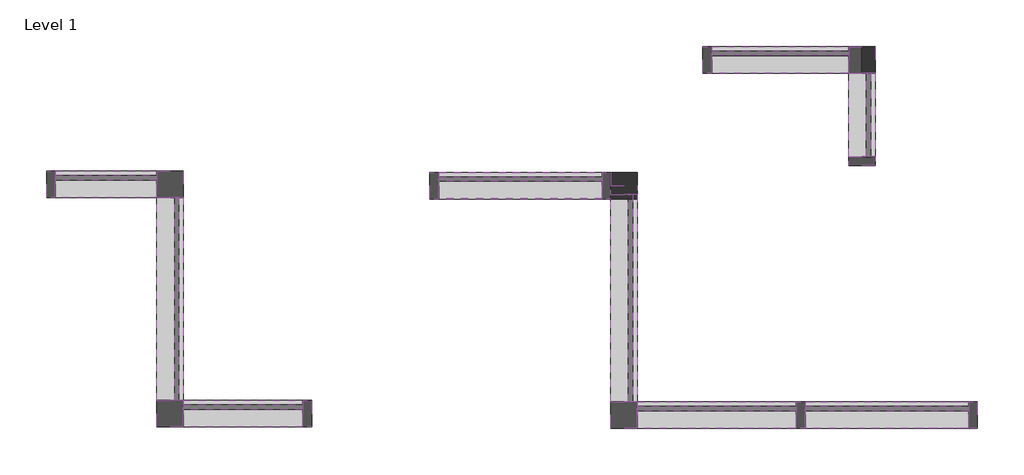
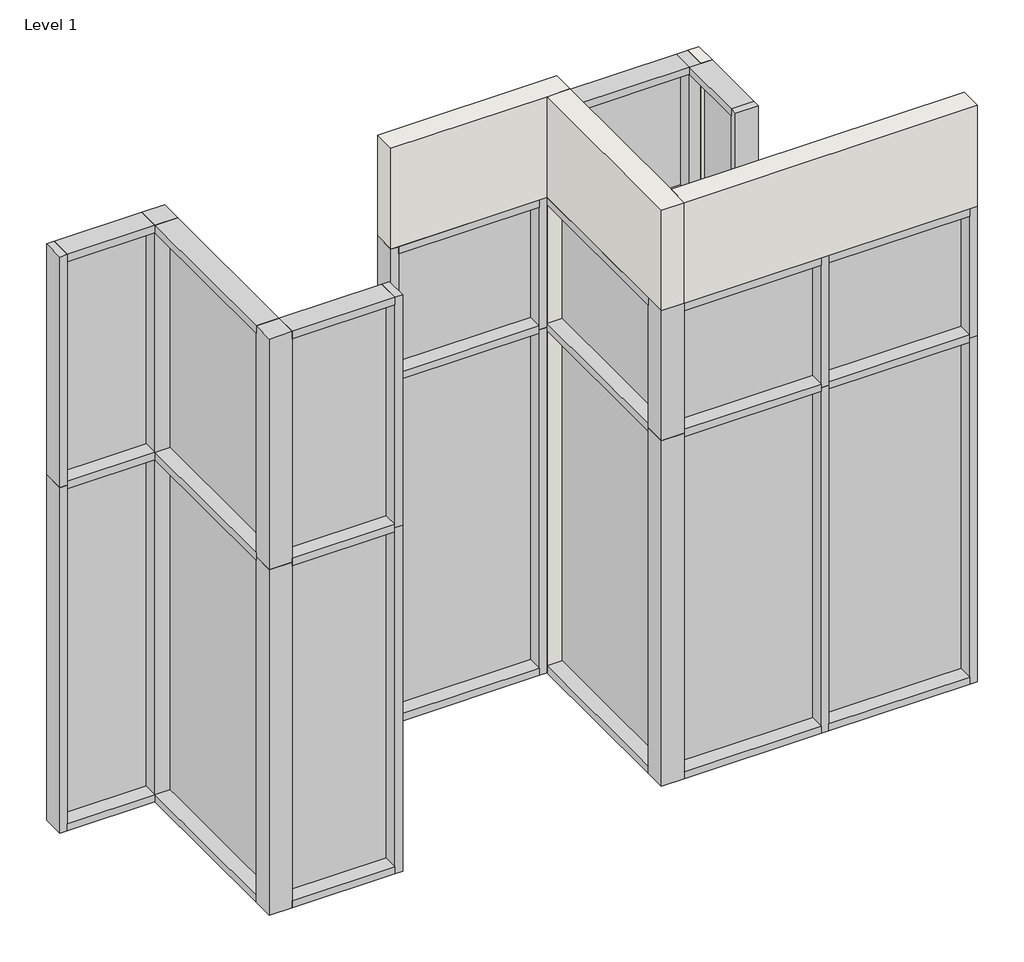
# One storey: 53 members, 18 plates, 4 walls.
"""IFC4 building model written with IfcOpenShell, lengths in millimetres."""

from ifc_helpers import new_model, si_unit, origin, origin_with_axes, place, context, project, spatial, polyline, outline, extrude, faceted_brep, transform, mapped, element, save
from components import quad_corner_mullion_quad_mullion_1_db8797c5, quad_corner_mullion_quad_mullion_1_7e3d86e0, quad_corner_mullion_quad_mullion_1_7d99ceda, quad_corner_mullion_quad_mullion_1_74c77618, quad_corner_mullion_quad_mullion_1_437f71a9, quad_corner_mullion_quad_mullion_1_2cf40457, rectangular_mullion_50mm_x_150mm_662c37b1, rectangular_mullion_50mm_x_150mm_849620c7, rectangular_mullion_50mm_x_150mm_1a1f02c3, rectangular_mullion_50mm_x_150mm_89bf1671, rectangular_mullion_50mm_x_150mm_dbb82e9e, rectangular_mullion_50mm_x_150mm_9e0f1e24, rectangular_mullion_50mm_x_150mm_770ce294, rectangular_mullion_50mm_x_150mm_163d5e45, rectangular_mullion_50mm_x_150mm_35d6a770, rectangular_mullion_50mm_x_150mm_a91aaa2b, rectangular_mullion_50mm_x_150mm_116cff39, rectangular_mullion_50mm_x_150mm_6225e4e3, rectangular_mullion_50mm_x_150mm_3ddb3363, rectangular_mullion_50mm_x_150mm_3a321350, rectangular_mullion_50mm_x_150mm_e54847f5, rectangular_mullion_50mm_x_150mm_5dc04e1f, rectangular_mullion_50mm_x_150mm_6270d9f9, rectangular_mullion_50mm_x_150mm_42d59fea, rectangular_mullion_50mm_x_150mm_05a43cda, system_panel_glazed_da9c98b6, system_panel_glazed_bb21d9a1, system_panel_glazed_6e5ec37a, system_panel_glazed_b68dd662, system_panel_glazed_f68d4846, system_panel_glazed_c5a436a7, system_panel_glazed_70154507, system_panel_glazed_fbde87e3, system_panel_glazed_c20ad364, system_panel_glazed_83de327d, system_panel_glazed_b2bd6f23, system_panel_glazed_33c8cf34, system_panel_glazed_53f904c2, system_panel_glazed_4d4212b5, system_panel_glazed_7b139e0c, system_panel_glazed_e7e54dde

model = new_model("IFC4")

# Units and contexts
model_context = context("Model", 3, world=origin())
ifc_project = project(units=[si_unit("LENGTHUNIT", "METRE", prefix="MILLI")], contexts=[model_context])

# Site, building, storey
site = spatial("IfcSite", under=ifc_project)
building = spatial("IfcBuilding", under=site)
storey = spatial("IfcBuildingStorey", under=building, Name="Level 1", Elevation=0.0)

# Members
placement = place(None, origin())
quad_corner_mullion_quad_mullion_1_shape = quad_corner_mullion_quad_mullion_1_db8797c5(model_context)
element("IfcMember", 1, ObjectType="Quad Corner Mullion : Quad Mullion 1", at=placement, inside=storey, context=model_context, shape_type="MappedRepresentation", body=[
    mapped(quad_corner_mullion_quad_mullion_1_shape, transform((-4624.2449098, 2905.5613997, 4000.0), x_axis=(0.0, 1.0, 0.0), y_axis=(-1.0, 0.0, 0.0), z_axis=(0.0, 0.0, 1.0))),
])
quad_corner_mullion_quad_mullion_1_2_shape = quad_corner_mullion_quad_mullion_1_7e3d86e0(model_context)
element("IfcMember", 2, ObjectType="Quad Corner Mullion : Quad Mullion 1", at=placement, inside=storey, context=model_context, shape_type="MappedRepresentation", body=[
    mapped(quad_corner_mullion_quad_mullion_1_2_shape, transform((-4624.2449098, 2905.5613997, 2400.0), x_axis=(0.0, 1.0, 0.0), y_axis=(-1.0, 0.0, 0.0), z_axis=(0.0, 0.0, 1.0))),
])
quad_corner_mullion_quad_mullion_1_3_shape = quad_corner_mullion_quad_mullion_1_7d99ceda(model_context)
element("IfcMember", 3, ObjectType="Quad Corner Mullion : Quad Mullion 1", at=placement, inside=storey, context=model_context, shape_type="MappedRepresentation", body=[
    mapped(quad_corner_mullion_quad_mullion_1_3_shape, transform((-4624.2449098, 1605.5613997, 4000.0), x_axis=(-1.0, 0.0, 0.0), y_axis=(0.0, -1.0, 0.0), z_axis=(0.0, 0.0, 1.0))),
])
quad_corner_mullion_quad_mullion_1_4_shape = quad_corner_mullion_quad_mullion_1_74c77618(model_context)
element("IfcMember", 4, ObjectType="Quad Corner Mullion : Quad Mullion 1", at=placement, inside=storey, context=model_context, shape_type="MappedRepresentation", body=[
    mapped(quad_corner_mullion_quad_mullion_1_4_shape, transform((-4624.2449098, 1605.5613997, 2400.0), x_axis=(-1.0, 0.0, 0.0), y_axis=(0.0, -1.0, 0.0), z_axis=(0.0, 0.0, 1.0))),
])
element("IfcMember", 5, ObjectType="Quad Corner Mullion : Quad Mullion 1", at=placement, inside=storey, context=model_context, shape_type="MappedRepresentation", body=[
    mapped(quad_corner_mullion_quad_mullion_1_4_shape, transform((-2054.4770783, 1597.9166648, 0.0), x_axis=(0.0, -1.0, 0.0), y_axis=(-1.0, 0.0, 0.0), z_axis=(0.0, 0.0, -1.0))),
])
quad_corner_mullion_quad_mullion_1_5_shape = quad_corner_mullion_quad_mullion_1_437f71a9(model_context)
element("IfcMember", 6, ObjectType="Quad Corner Mullion : Quad Mullion 1", at=placement, inside=storey, context=model_context, shape_type="MappedRepresentation", body=[
    mapped(quad_corner_mullion_quad_mullion_1_5_shape, transform((-2054.4770783, 1597.9166648, 2400.0), x_axis=(0.0, -1.0, 0.0), y_axis=(-1.0, 0.0, 0.0), z_axis=(0.0, 0.0, -1.0))),
])
element("IfcMember", 7, ObjectType="Quad Corner Mullion : Quad Mullion 1", at=placement, inside=storey, context=model_context, shape_type="MappedRepresentation", body=[
    mapped(quad_corner_mullion_quad_mullion_1_2_shape, transform((-709.0833234, 3610.8615346, 0.0), x_axis=(1.0, 0.0, 0.0), y_axis=(0.0, -1.0, 0.0), z_axis=(0.0, 0.0, -1.0))),
])
quad_corner_mullion_quad_mullion_1_6_shape = quad_corner_mullion_quad_mullion_1_2cf40457(model_context)
element("IfcMember", 8, ObjectType="Quad Corner Mullion : Quad Mullion 1", at=placement, inside=storey, context=model_context, shape_type="MappedRepresentation", body=[
    mapped(quad_corner_mullion_quad_mullion_1_6_shape, transform((-709.0833234, 3610.8615346, 2400.0), x_axis=(1.0, 0.0, 0.0), y_axis=(0.0, -1.0, 0.0), z_axis=(0.0, 0.0, -1.0))),
])
rectangular_mullion_50mm_x_150mm_shape = rectangular_mullion_50mm_x_150mm_662c37b1(model_context)
element("IfcMember", 9, ObjectType="Rectangular Mullion : 50mm x 150mm", at=placement, inside=storey, context=model_context, shape_type="MappedRepresentation", body=[
    mapped(rectangular_mullion_50mm_x_150mm_shape, transform((-3824.2449098, 1605.5613997, 0.0), x_axis=(1.0, 0.0, 0.0), y_axis=(0.0, -1.0, 0.0), z_axis=(0.0, 0.0, -1.0))),
])
element("IfcMember", 10, ObjectType="Rectangular Mullion : 50mm x 150mm", at=placement, inside=storey, context=model_context, shape_type="MappedRepresentation", body=[
    mapped(rectangular_mullion_50mm_x_150mm_shape, transform((-2129.4770783, 2897.9166648, 0.0), x_axis=(1.0, 0.0, 0.0), y_axis=(0.0, -1.0, 0.0), z_axis=(0.0, 0.0, -1.0))),
])
element("IfcMember", 11, ObjectType="Rectangular Mullion : 50mm x 150mm", at=placement, inside=storey, context=model_context, shape_type="MappedRepresentation", body=[
    mapped(rectangular_mullion_50mm_x_150mm_shape, transform((-54.4770783, 1597.9166648, 0.0), x_axis=(1.0, 0.0, 0.0), y_axis=(0.0, -1.0, 0.0), z_axis=(0.0, 0.0, -1.0))),
])
element("IfcMember", 12, ObjectType="Rectangular Mullion : 50mm x 150mm", at=placement, inside=storey, context=model_context, shape_type="MappedRepresentation", body=[
    mapped(rectangular_mullion_50mm_x_150mm_shape, transform((-709.0833234, 3010.8615346, 0.0), x_axis=(0.0, -1.0, 0.0), y_axis=(-1.0, 0.0, 0.0), z_axis=(0.0, 0.0, -1.0))),
])
rectangular_mullion_50mm_x_150mm_2_shape = rectangular_mullion_50mm_x_150mm_849620c7(model_context)
element("IfcMember", 13, ObjectType="Rectangular Mullion : 50mm x 150mm", at=placement, inside=storey, context=model_context, shape_type="MappedRepresentation", body=[
    mapped(rectangular_mullion_50mm_x_150mm_2_shape, transform((-3824.2449098, 1605.5613997, 2400.0), x_axis=(1.0, 0.0, 0.0), y_axis=(0.0, -1.0, 0.0), z_axis=(0.0, 0.0, -1.0))),
])
element("IfcMember", 14, ObjectType="Rectangular Mullion : 50mm x 150mm", at=placement, inside=storey, context=model_context, shape_type="MappedRepresentation", body=[
    mapped(rectangular_mullion_50mm_x_150mm_2_shape, transform((-5324.2449098, 2905.5613997, 4000.0), x_axis=(-1.0, 0.0, 0.0), y_axis=(0.0, -1.0, 0.0), z_axis=(0.0, 0.0, 1.0))),
])
element("IfcMember", 15, ObjectType="Rectangular Mullion : 50mm x 150mm", at=placement, inside=storey, context=model_context, shape_type="MappedRepresentation", body=[
    mapped(rectangular_mullion_50mm_x_150mm_shape, transform((-5324.2449098, 2905.5613997, 2400.0), x_axis=(-1.0, 0.0, 0.0), y_axis=(0.0, -1.0, 0.0), z_axis=(0.0, 0.0, 1.0))),
])
element("IfcMember", 16, ObjectType="Rectangular Mullion : 50mm x 150mm", at=placement, inside=storey, context=model_context, shape_type="MappedRepresentation", body=[
    mapped(rectangular_mullion_50mm_x_150mm_shape, transform((-3154.4770783, 2897.9166648, 2400.0), x_axis=(-1.0, 0.0, 0.0), y_axis=(0.0, -1.0, 0.0), z_axis=(0.0, 0.0, 1.0))),
])
element("IfcMember", 17, ObjectType="Rectangular Mullion : 50mm x 150mm", at=placement, inside=storey, context=model_context, shape_type="MappedRepresentation", body=[
    mapped(rectangular_mullion_50mm_x_150mm_shape, transform((-2054.4770783, 2897.9166648, 2400.0), x_axis=(0.0, 1.0, 0.0), y_axis=(-1.0, 0.0, 0.0), z_axis=(0.0, 0.0, 1.0))),
])
element("IfcMember", 18, ObjectType="Rectangular Mullion : 50mm x 150mm", at=placement, inside=storey, context=model_context, shape_type="MappedRepresentation", body=[
    mapped(rectangular_mullion_50mm_x_150mm_shape, transform((-1609.0833234, 3610.8615346, 2400.0), x_axis=(-1.0, 0.0, 0.0), y_axis=(0.0, -1.0, 0.0), z_axis=(0.0, 0.0, 1.0))),
])
rectangular_mullion_50mm_x_150mm_3_shape = rectangular_mullion_50mm_x_150mm_1a1f02c3(model_context)
element("IfcMember", 19, ObjectType="Rectangular Mullion : 50mm x 150mm", at=placement, inside=storey, context=model_context, shape_type="MappedRepresentation", body=[
    mapped(rectangular_mullion_50mm_x_150mm_3_shape, transform((-4699.2449098, 2905.5613997, 4000.0), x_axis=(0.0, 0.0, 1.0), y_axis=(0.0, -1.0, 0.0), z_axis=(1.0, 0.0, 0.0))),
])
element("IfcMember", 20, ObjectType="Rectangular Mullion : 50mm x 150mm", at=placement, inside=storey, context=model_context, shape_type="MappedRepresentation", body=[
    mapped(rectangular_mullion_50mm_x_150mm_3_shape, transform((-5274.2449098, 2905.5613997, 0.0), x_axis=(0.0, 0.0, -1.0), y_axis=(0.0, -1.0, 0.0), z_axis=(-1.0, 0.0, 0.0))),
])
rectangular_mullion_50mm_x_150mm_4_shape = rectangular_mullion_50mm_x_150mm_89bf1671(model_context)
element("IfcMember", 21, ObjectType="Rectangular Mullion : 50mm x 150mm", at=placement, inside=storey, context=model_context, shape_type="MappedRepresentation", body=[
    mapped(rectangular_mullion_50mm_x_150mm_4_shape, transform((-4699.2449098, 2905.5613997, 2400.0), x_axis=(0.0, 0.0, 1.0), y_axis=(0.0, -1.0, 0.0), z_axis=(1.0, 0.0, 0.0))),
])
rectangular_mullion_50mm_x_150mm_5_shape = rectangular_mullion_50mm_x_150mm_dbb82e9e(model_context)
element("IfcMember", 22, ObjectType="Rectangular Mullion : 50mm x 150mm", at=placement, inside=storey, context=model_context, shape_type="MappedRepresentation", body=[
    mapped(rectangular_mullion_50mm_x_150mm_5_shape, transform((-3874.2449098, 1605.5613997, 4000.0), x_axis=(0.0, 0.0, 1.0), y_axis=(0.0, -1.0, 0.0), z_axis=(1.0, 0.0, 0.0))),
])
element("IfcMember", 23, ObjectType="Rectangular Mullion : 50mm x 150mm", at=placement, inside=storey, context=model_context, shape_type="MappedRepresentation", body=[
    mapped(rectangular_mullion_50mm_x_150mm_5_shape, transform((-4549.2449098, 1605.5613997, 0.0), x_axis=(0.0, 0.0, -1.0), y_axis=(0.0, -1.0, 0.0), z_axis=(-1.0, 0.0, 0.0))),
])
rectangular_mullion_50mm_x_150mm_6_shape = rectangular_mullion_50mm_x_150mm_9e0f1e24(model_context)
element("IfcMember", 24, ObjectType="Rectangular Mullion : 50mm x 150mm", at=placement, inside=storey, context=model_context, shape_type="MappedRepresentation", body=[
    mapped(rectangular_mullion_50mm_x_150mm_6_shape, transform((-3874.2449098, 1605.5613997, 2400.0), x_axis=(0.0, 0.0, 1.0), y_axis=(0.0, -1.0, 0.0), z_axis=(1.0, 0.0, 0.0))),
])
rectangular_mullion_50mm_x_150mm_7_shape = rectangular_mullion_50mm_x_150mm_770ce294(model_context)
element("IfcMember", 25, ObjectType="Rectangular Mullion : 50mm x 150mm", at=placement, inside=storey, context=model_context, shape_type="MappedRepresentation", body=[
    mapped(rectangular_mullion_50mm_x_150mm_7_shape, transform((-4624.2449098, 1680.5613997, 4000.0), x_axis=(0.0, 0.0, 1.0), y_axis=(-1.0, 0.0, 0.0), z_axis=(0.0, -1.0, 0.0))),
])
element("IfcMember", 26, ObjectType="Rectangular Mullion : 50mm x 150mm", at=placement, inside=storey, context=model_context, shape_type="MappedRepresentation", body=[
    mapped(rectangular_mullion_50mm_x_150mm_7_shape, transform((-4624.2449098, 2830.5613997, 0.0), x_axis=(0.0, 0.0, -1.0), y_axis=(-1.0, 0.0, 0.0), z_axis=(0.0, 1.0, 0.0))),
])
rectangular_mullion_50mm_x_150mm_8_shape = rectangular_mullion_50mm_x_150mm_163d5e45(model_context)
element("IfcMember", 27, ObjectType="Rectangular Mullion : 50mm x 150mm", at=placement, inside=storey, context=model_context, shape_type="MappedRepresentation", body=[
    mapped(rectangular_mullion_50mm_x_150mm_8_shape, transform((-4624.2449098, 1680.5613997, 2400.0), x_axis=(0.0, 0.0, 1.0), y_axis=(-1.0, 0.0, 0.0), z_axis=(0.0, -1.0, 0.0))),
])
rectangular_mullion_50mm_x_150mm_9_shape = rectangular_mullion_50mm_x_150mm_35d6a770(model_context)
element("IfcMember", 28, ObjectType="Rectangular Mullion : 50mm x 150mm", at=placement, inside=storey, context=model_context, shape_type="MappedRepresentation", body=[
    mapped(rectangular_mullion_50mm_x_150mm_9_shape, transform((-2129.4770783, 2897.9166648, 2400.0), x_axis=(1.0, 0.0, 0.0), y_axis=(0.0, -1.0, 0.0), z_axis=(0.0, 0.0, -1.0))),
])
element("IfcMember", 29, ObjectType="Rectangular Mullion : 50mm x 150mm", at=placement, inside=storey, context=model_context, shape_type="MappedRepresentation", body=[
    mapped(rectangular_mullion_50mm_x_150mm_9_shape, transform((-54.4770783, 1597.9166648, 2400.0), x_axis=(1.0, 0.0, 0.0), y_axis=(0.0, -1.0, 0.0), z_axis=(0.0, 0.0, -1.0))),
])
element("IfcMember", 30, ObjectType="Rectangular Mullion : 50mm x 150mm", at=placement, inside=storey, context=model_context, shape_type="MappedRepresentation", body=[
    mapped(rectangular_mullion_50mm_x_150mm_9_shape, transform((-709.0833234, 3010.8615346, 2400.0), x_axis=(0.0, -1.0, 0.0), y_axis=(-1.0, 0.0, 0.0), z_axis=(0.0, 0.0, -1.0))),
])
element("IfcMember", 31, ObjectType="Rectangular Mullion : 50mm x 150mm", at=placement, inside=storey, context=model_context, shape_type="MappedRepresentation", body=[
    mapped(rectangular_mullion_50mm_x_150mm_9_shape, transform((-3154.4770783, 2897.9166648, 3300.0), x_axis=(-1.0, 0.0, 0.0), y_axis=(0.0, -1.0, 0.0), z_axis=(0.0, 0.0, 1.0))),
])
element("IfcMember", 32, ObjectType="Rectangular Mullion : 50mm x 150mm", at=placement, inside=storey, context=model_context, shape_type="MappedRepresentation", body=[
    mapped(rectangular_mullion_50mm_x_150mm_9_shape, transform((-2054.4770783, 2897.9166648, 3300.0), x_axis=(0.0, 1.0, 0.0), y_axis=(-1.0, 0.0, 0.0), z_axis=(0.0, 0.0, 1.0))),
])
element("IfcMember", 33, ObjectType="Rectangular Mullion : 50mm x 150mm", at=placement, inside=storey, context=model_context, shape_type="MappedRepresentation", body=[
    mapped(rectangular_mullion_50mm_x_150mm_9_shape, transform((-1609.0833234, 3610.8615346, 3300.0), x_axis=(-1.0, 0.0, 0.0), y_axis=(0.0, -1.0, 0.0), z_axis=(0.0, 0.0, 1.0))),
])
rectangular_mullion_50mm_x_150mm_10_shape = rectangular_mullion_50mm_x_150mm_a91aaa2b(model_context)
element("IfcMember", 34, ObjectType="Rectangular Mullion : 50mm x 150mm", at=placement, inside=storey, context=model_context, shape_type="MappedRepresentation", body=[
    mapped(rectangular_mullion_50mm_x_150mm_10_shape, transform((-2179.4770783, 2897.9166648, 3300.0), x_axis=(0.0, 0.0, 1.0), y_axis=(0.0, -1.0, 0.0), z_axis=(1.0, 0.0, 0.0))),
])
element("IfcMember", 35, ObjectType="Rectangular Mullion : 50mm x 150mm", at=placement, inside=storey, context=model_context, shape_type="MappedRepresentation", body=[
    mapped(rectangular_mullion_50mm_x_150mm_10_shape, transform((-104.4770783, 1597.9166648, 3300.0), x_axis=(0.0, 0.0, 1.0), y_axis=(0.0, -1.0, 0.0), z_axis=(1.0, 0.0, 0.0))),
])
element("IfcMember", 36, ObjectType="Rectangular Mullion : 50mm x 150mm", at=placement, inside=storey, context=model_context, shape_type="MappedRepresentation", body=[
    mapped(rectangular_mullion_50mm_x_150mm_10_shape, transform((-3104.4770783, 2897.9166648, 0.0), x_axis=(0.0, 0.0, -1.0), y_axis=(0.0, -1.0, 0.0), z_axis=(-1.0, 0.0, 0.0))),
])
element("IfcMember", 37, ObjectType="Rectangular Mullion : 50mm x 150mm", at=placement, inside=storey, context=model_context, shape_type="MappedRepresentation", body=[
    mapped(rectangular_mullion_50mm_x_150mm_10_shape, transform((-1029.4770783, 1597.9166648, 0.0), x_axis=(0.0, 0.0, -1.0), y_axis=(0.0, -1.0, 0.0), z_axis=(-1.0, 0.0, 0.0))),
])
rectangular_mullion_50mm_x_150mm_11_shape = rectangular_mullion_50mm_x_150mm_116cff39(model_context)
element("IfcMember", 38, ObjectType="Rectangular Mullion : 50mm x 150mm", at=placement, inside=storey, context=model_context, shape_type="MappedRepresentation", body=[
    mapped(rectangular_mullion_50mm_x_150mm_11_shape, transform((-2179.4770783, 2897.9166648, 2400.0), x_axis=(0.0, 0.0, 1.0), y_axis=(0.0, -1.0, 0.0), z_axis=(1.0, 0.0, 0.0))),
])
element("IfcMember", 39, ObjectType="Rectangular Mullion : 50mm x 150mm", at=placement, inside=storey, context=model_context, shape_type="MappedRepresentation", body=[
    mapped(rectangular_mullion_50mm_x_150mm_11_shape, transform((-104.4770783, 1597.9166648, 2400.0), x_axis=(0.0, 0.0, 1.0), y_axis=(0.0, -1.0, 0.0), z_axis=(1.0, 0.0, 0.0))),
])
rectangular_mullion_50mm_x_150mm_12_shape = rectangular_mullion_50mm_x_150mm_6225e4e3(model_context)
element("IfcMember", 40, ObjectType="Rectangular Mullion : 50mm x 150mm", at=placement, inside=storey, context=model_context, shape_type="MappedRepresentation", body=[
    mapped(rectangular_mullion_50mm_x_150mm_12_shape, transform((-1054.4770783, 1597.9166648, 0.0), x_axis=(1.0, 0.0, 0.0), y_axis=(0.0, -1.0, 0.0), z_axis=(0.0, 0.0, -1.0))),
])
rectangular_mullion_50mm_x_150mm_13_shape = rectangular_mullion_50mm_x_150mm_3ddb3363(model_context)
element("IfcMember", 41, ObjectType="Rectangular Mullion : 50mm x 150mm", at=placement, inside=storey, context=model_context, shape_type="MappedRepresentation", body=[
    mapped(rectangular_mullion_50mm_x_150mm_13_shape, transform((-1054.4770783, 1597.9166648, 2400.0), x_axis=(1.0, 0.0, 0.0), y_axis=(0.0, -1.0, 0.0), z_axis=(0.0, 0.0, -1.0))),
])
rectangular_mullion_50mm_x_150mm_14_shape = rectangular_mullion_50mm_x_150mm_3a321350(model_context)
element("IfcMember", 42, ObjectType="Rectangular Mullion : 50mm x 150mm", at=placement, inside=storey, context=model_context, shape_type="MappedRepresentation", body=[
    mapped(rectangular_mullion_50mm_x_150mm_14_shape, transform((-2054.4770783, 1672.9166648, 3300.0), x_axis=(0.0, 0.0, 1.0), y_axis=(-1.0, 0.0, 0.0), z_axis=(0.0, -1.0, 0.0))),
])
element("IfcMember", 43, ObjectType="Rectangular Mullion : 50mm x 150mm", at=placement, inside=storey, context=model_context, shape_type="MappedRepresentation", body=[
    mapped(rectangular_mullion_50mm_x_150mm_14_shape, transform((-2054.4770783, 2847.9166648, 0.0), x_axis=(0.0, 0.0, -1.0), y_axis=(-1.0, 0.0, 0.0), z_axis=(0.0, 1.0, 0.0))),
])
rectangular_mullion_50mm_x_150mm_15_shape = rectangular_mullion_50mm_x_150mm_e54847f5(model_context)
element("IfcMember", 44, ObjectType="Rectangular Mullion : 50mm x 150mm", at=placement, inside=storey, context=model_context, shape_type="MappedRepresentation", body=[
    mapped(rectangular_mullion_50mm_x_150mm_15_shape, transform((-2054.4770783, 1672.9166648, 2400.0), x_axis=(0.0, 0.0, 1.0), y_axis=(-1.0, 0.0, 0.0), z_axis=(0.0, -1.0, 0.0))),
])
element("IfcMember", 45, ObjectType="Rectangular Mullion : 50mm x 150mm", at=placement, inside=storey, context=model_context, shape_type="MappedRepresentation", body=[
    mapped(rectangular_mullion_50mm_x_150mm_9_shape, transform((-1079.4770783, 1597.9166648, 3300.0), x_axis=(0.0, 0.0, 1.0), y_axis=(0.0, -1.0, 0.0), z_axis=(1.0, 0.0, 0.0))),
])
element("IfcMember", 46, ObjectType="Rectangular Mullion : 50mm x 150mm", at=placement, inside=storey, context=model_context, shape_type="MappedRepresentation", body=[
    mapped(rectangular_mullion_50mm_x_150mm_9_shape, transform((-1979.4770783, 1597.9166648, 0.0), x_axis=(0.0, 0.0, -1.0), y_axis=(0.0, -1.0, 0.0), z_axis=(-1.0, 0.0, 0.0))),
])
element("IfcMember", 47, ObjectType="Rectangular Mullion : 50mm x 150mm", at=placement, inside=storey, context=model_context, shape_type="MappedRepresentation", body=[
    mapped(rectangular_mullion_50mm_x_150mm_13_shape, transform((-1079.4770783, 1597.9166648, 2400.0), x_axis=(0.0, 0.0, 1.0), y_axis=(0.0, -1.0, 0.0), z_axis=(1.0, 0.0, 0.0))),
])
rectangular_mullion_50mm_x_150mm_16_shape = rectangular_mullion_50mm_x_150mm_5dc04e1f(model_context)
element("IfcMember", 48, ObjectType="Rectangular Mullion : 50mm x 150mm", at=placement, inside=storey, context=model_context, shape_type="MappedRepresentation", body=[
    mapped(rectangular_mullion_50mm_x_150mm_16_shape, transform((-784.0833234, 3610.8615346, 3300.0), x_axis=(0.0, 0.0, 1.0), y_axis=(0.0, -1.0, 0.0), z_axis=(1.0, 0.0, 0.0))),
])
element("IfcMember", 49, ObjectType="Rectangular Mullion : 50mm x 150mm", at=placement, inside=storey, context=model_context, shape_type="MappedRepresentation", body=[
    mapped(rectangular_mullion_50mm_x_150mm_16_shape, transform((-1559.0833234, 3610.8615346, 0.0), x_axis=(0.0, 0.0, -1.0), y_axis=(0.0, -1.0, 0.0), z_axis=(-1.0, 0.0, 0.0))),
])
rectangular_mullion_50mm_x_150mm_17_shape = rectangular_mullion_50mm_x_150mm_6270d9f9(model_context)
element("IfcMember", 50, ObjectType="Rectangular Mullion : 50mm x 150mm", at=placement, inside=storey, context=model_context, shape_type="MappedRepresentation", body=[
    mapped(rectangular_mullion_50mm_x_150mm_17_shape, transform((-784.0833234, 3610.8615346, 2400.0), x_axis=(0.0, 0.0, 1.0), y_axis=(0.0, -1.0, 0.0), z_axis=(1.0, 0.0, 0.0))),
])
rectangular_mullion_50mm_x_150mm_18_shape = rectangular_mullion_50mm_x_150mm_42d59fea(model_context)
element("IfcMember", 51, ObjectType="Rectangular Mullion : 50mm x 150mm", at=placement, inside=storey, context=model_context, shape_type="MappedRepresentation", body=[
    mapped(rectangular_mullion_50mm_x_150mm_18_shape, transform((-709.0833234, 3060.8615346, 3300.0), x_axis=(0.0, 0.0, 1.0), y_axis=(-1.0, 0.0, 0.0), z_axis=(0.0, -1.0, 0.0))),
])
element("IfcMember", 52, ObjectType="Rectangular Mullion : 50mm x 150mm", at=placement, inside=storey, context=model_context, shape_type="MappedRepresentation", body=[
    mapped(rectangular_mullion_50mm_x_150mm_18_shape, transform((-709.0833234, 3535.8615346, 0.0), x_axis=(0.0, 0.0, -1.0), y_axis=(-1.0, 0.0, 0.0), z_axis=(0.0, 1.0, 0.0))),
])
rectangular_mullion_50mm_x_150mm_19_shape = rectangular_mullion_50mm_x_150mm_05a43cda(model_context)
element("IfcMember", 53, ObjectType="Rectangular Mullion : 50mm x 150mm", at=placement, inside=storey, context=model_context, shape_type="MappedRepresentation", body=[
    mapped(rectangular_mullion_50mm_x_150mm_19_shape, transform((-709.0833234, 3060.8615346, 2400.0), x_axis=(0.0, 0.0, 1.0), y_axis=(-1.0, 0.0, 0.0), z_axis=(0.0, -1.0, 0.0))),
])

# Plates
system_panel_glazed_shape = system_panel_glazed_da9c98b6(model_context)
element("IfcPlate", 54, ObjectType="System Panel : Glazed", at=placement, inside=storey, context=model_context, shape_type="MappedRepresentation", body=[
    mapped(system_panel_glazed_shape, transform((-4986.7449098, 2905.5613997, 50.0), x_axis=(1.0, 0.0, 0.0), y_axis=(0.0, 1.0, 0.0), z_axis=(0.0, 0.0, 1.0))),
])
system_panel_glazed_2_shape = system_panel_glazed_bb21d9a1(model_context)
element("IfcPlate", 55, ObjectType="System Panel : Glazed", at=placement, inside=storey, context=model_context, shape_type="MappedRepresentation", body=[
    mapped(system_panel_glazed_2_shape, transform((-4986.7449098, 2905.5613997, 2425.0), x_axis=(1.0, 0.0, 0.0), y_axis=(0.0, 1.0, 0.0), z_axis=(0.0, 0.0, 1.0))),
])
system_panel_glazed_3_shape = system_panel_glazed_6e5ec37a(model_context)
element("IfcPlate", 56, ObjectType="System Panel : Glazed", at=placement, inside=storey, context=model_context, shape_type="MappedRepresentation", body=[
    mapped(system_panel_glazed_3_shape, transform((-4211.7449098, 1605.5613997, 50.0), x_axis=(1.0, 0.0, 0.0), y_axis=(0.0, 1.0, 0.0), z_axis=(0.0, 0.0, 1.0))),
])
system_panel_glazed_4_shape = system_panel_glazed_b68dd662(model_context)
element("IfcPlate", 57, ObjectType="System Panel : Glazed", at=placement, inside=storey, context=model_context, shape_type="MappedRepresentation", body=[
    mapped(system_panel_glazed_4_shape, transform((-4211.7449098, 1605.5613997, 2425.0), x_axis=(1.0, 0.0, 0.0), y_axis=(0.0, 1.0, 0.0), z_axis=(0.0, 0.0, 1.0))),
])
system_panel_glazed_5_shape = system_panel_glazed_f68d4846(model_context)
element("IfcPlate", 58, ObjectType="System Panel : Glazed", at=placement, inside=storey, context=model_context, shape_type="MappedRepresentation", body=[
    mapped(system_panel_glazed_5_shape, transform((-4624.2449098, 2255.5613997, 50.0), x_axis=(0.0, -1.0, 0.0), y_axis=(1.0, 0.0, 0.0), z_axis=(0.0, 0.0, 1.0))),
])
system_panel_glazed_6_shape = system_panel_glazed_c5a436a7(model_context)
element("IfcPlate", 59, ObjectType="System Panel : Glazed", at=placement, inside=storey, context=model_context, shape_type="MappedRepresentation", body=[
    mapped(system_panel_glazed_6_shape, transform((-4624.2449098, 2255.5613997, 2425.0), x_axis=(0.0, -1.0, 0.0), y_axis=(1.0, 0.0, 0.0), z_axis=(0.0, 0.0, 1.0))),
])
system_panel_glazed_7_shape = system_panel_glazed_70154507(model_context)
element("IfcPlate", 60, ObjectType="System Panel : Glazed", at=placement, inside=storey, context=model_context, shape_type="MappedRepresentation", body=[
    mapped(system_panel_glazed_7_shape, transform((-2641.9770783, 2897.9166648, 50.0), x_axis=(1.0, 0.0, 0.0), y_axis=(0.0, 1.0, 0.0), z_axis=(0.0, 0.0, 1.0))),
])
element("IfcPlate", 61, ObjectType="System Panel : Glazed", at=placement, inside=storey, context=model_context, shape_type="MappedRepresentation", body=[
    mapped(system_panel_glazed_7_shape, transform((-566.9770783, 1597.9166648, 50.0), x_axis=(1.0, 0.0, 0.0), y_axis=(0.0, 1.0, 0.0), z_axis=(0.0, 0.0, 1.0))),
])
system_panel_glazed_8_shape = system_panel_glazed_fbde87e3(model_context)
element("IfcPlate", 62, ObjectType="System Panel : Glazed", at=placement, inside=storey, context=model_context, shape_type="MappedRepresentation", body=[
    mapped(system_panel_glazed_8_shape, transform((-2641.9770783, 2897.9166648, 2425.0), x_axis=(1.0, 0.0, 0.0), y_axis=(0.0, 1.0, 0.0), z_axis=(0.0, 0.0, 1.0))),
])
element("IfcPlate", 63, ObjectType="System Panel : Glazed", at=placement, inside=storey, context=model_context, shape_type="MappedRepresentation", body=[
    mapped(system_panel_glazed_8_shape, transform((-566.9770783, 1597.9166648, 2425.0), x_axis=(1.0, 0.0, 0.0), y_axis=(0.0, 1.0, 0.0), z_axis=(0.0, 0.0, 1.0))),
])
system_panel_glazed_9_shape = system_panel_glazed_c20ad364(model_context)
element("IfcPlate", 64, ObjectType="System Panel : Glazed", at=placement, inside=storey, context=model_context, shape_type="MappedRepresentation", body=[
    mapped(system_panel_glazed_9_shape, transform((-2054.4770783, 2260.4166648, 50.0), x_axis=(0.0, -1.0, 0.0), y_axis=(1.0, 0.0, 0.0), z_axis=(0.0, 0.0, 1.0))),
])
system_panel_glazed_10_shape = system_panel_glazed_83de327d(model_context)
element("IfcPlate", 65, ObjectType="System Panel : Glazed", at=placement, inside=storey, context=model_context, shape_type="MappedRepresentation", body=[
    mapped(system_panel_glazed_10_shape, transform((-2054.4770783, 2260.4166648, 2425.0), x_axis=(0.0, -1.0, 0.0), y_axis=(1.0, 0.0, 0.0), z_axis=(0.0, 0.0, 1.0))),
])
system_panel_glazed_11_shape = system_panel_glazed_b2bd6f23(model_context)
element("IfcPlate", 66, ObjectType="System Panel : Glazed", at=placement, inside=storey, context=model_context, shape_type="MappedRepresentation", body=[
    mapped(system_panel_glazed_11_shape, transform((-1529.4770783, 1597.9166648, 50.0), x_axis=(1.0, 0.0, 0.0), y_axis=(0.0, 1.0, 0.0), z_axis=(0.0, 0.0, 1.0))),
])
system_panel_glazed_12_shape = system_panel_glazed_33c8cf34(model_context)
element("IfcPlate", 67, ObjectType="System Panel : Glazed", at=placement, inside=storey, context=model_context, shape_type="MappedRepresentation", body=[
    mapped(system_panel_glazed_12_shape, transform((-1529.4770783, 1597.9166648, 2425.0), x_axis=(1.0, 0.0, 0.0), y_axis=(0.0, 1.0, 0.0), z_axis=(0.0, 0.0, 1.0))),
])
system_panel_glazed_13_shape = system_panel_glazed_53f904c2(model_context)
element("IfcPlate", 68, ObjectType="System Panel : Glazed", at=placement, inside=storey, context=model_context, shape_type="MappedRepresentation", body=[
    mapped(system_panel_glazed_13_shape, transform((-1171.5833234, 3610.8615346, 50.0), x_axis=(1.0, 0.0, 0.0), y_axis=(0.0, 1.0, 0.0), z_axis=(0.0, 0.0, 1.0))),
])
system_panel_glazed_14_shape = system_panel_glazed_4d4212b5(model_context)
element("IfcPlate", 69, ObjectType="System Panel : Glazed", at=placement, inside=storey, context=model_context, shape_type="MappedRepresentation", body=[
    mapped(system_panel_glazed_14_shape, transform((-1171.5833234, 3610.8615346, 2425.0), x_axis=(1.0, 0.0, 0.0), y_axis=(0.0, 1.0, 0.0), z_axis=(0.0, 0.0, 1.0))),
])
system_panel_glazed_15_shape = system_panel_glazed_7b139e0c(model_context)
element("IfcPlate", 70, ObjectType="System Panel : Glazed", at=placement, inside=storey, context=model_context, shape_type="MappedRepresentation", body=[
    mapped(system_panel_glazed_15_shape, transform((-709.0833234, 3298.3615346, 50.0), x_axis=(0.0, -1.0, 0.0), y_axis=(1.0, 0.0, 0.0), z_axis=(0.0, 0.0, 1.0))),
])
system_panel_glazed_16_shape = system_panel_glazed_e7e54dde(model_context)
element("IfcPlate", 71, ObjectType="System Panel : Glazed", at=placement, inside=storey, context=model_context, shape_type="MappedRepresentation", body=[
    mapped(system_panel_glazed_16_shape, transform((-709.0833234, 3298.3615346, 2425.0), x_axis=(0.0, -1.0, 0.0), y_axis=(1.0, 0.0, 0.0), z_axis=(0.0, 0.0, 1.0))),
])

# Walls
element("IfcWall", 72, ObjectType="Generic - 150mm", at=placement, inside=storey, context=model_context, shape_type="Brep", body=[
    faceted_brep([(-1979.4770783, 2822.9166648, 4000.0), (-2129.4770783, 2822.9166648, 4000.0), (-3154.4770783, 2822.9166648, 4000.0), (-3154.4770783, 2822.9166648, 3300.0), (-2129.4770783, 2822.9166648, 3300.0), (-2129.4770783, 2822.9166648, 0.0), (-1979.4770783, 2822.9166648, 0.0), (-3154.4770783, 2972.9166648, 4000.0), (-1979.4770783, 2972.9166648, 4000.0), (-1979.4770783, 2972.9166648, 0.0), (-2129.4770783, 2972.9166648, 0.0), (-2129.4770783, 2972.9166648, 3300.0), (-3154.4770783, 2972.9166648, 3300.0)], [[[0, 1, 2, 3, 4, 5, 6]], [[7, 8, 9, 10, 11, 12]], [[9, 6, 5, 10]], [[2, 1, 0, 8, 7]], [[2, 7, 12, 3]], [[0, 6, 9, 8]], [[11, 4, 3, 12]], [[4, 11, 10, 5]]]),
])
element("IfcWall", 73, ObjectType="Generic - 150mm", at=placement, inside=storey, context=model_context, shape_type="Brep", body=[
    faceted_brep([(-2129.4770783, 1522.9166648, 4000.0), (-2129.4770783, 2822.9166648, 4000.0), (-2129.4770783, 2822.9166648, 3300.0), (-2129.4770783, 1597.9166648, 3300.0), (-2129.4770783, 1597.9166648, 0.0), (-2129.4770783, 1522.9166648, 0.0), (-1979.4770783, 2822.9166648, 4000.0), (-1979.4770783, 1672.9166648, 4000.0), (-1979.4770783, 1522.9166648, 4000.0), (-1979.4770783, 1522.9166648, 0.0), (-1979.4770783, 1597.9166648, 0.0), (-1979.4770783, 1597.9166648, 3300.0), (-1979.4770783, 2822.9166648, 3300.0)], [[[0, 1, 2, 3, 4, 5]], [[6, 7, 8, 9, 10, 11, 12]], [[9, 5, 4, 10]], [[1, 0, 8, 7, 6]], [[1, 6, 12, 2]], [[0, 5, 9, 8]], [[11, 3, 2, 12]], [[3, 11, 10, 4]]]),
])
element("IfcWall", 74, ObjectType="Generic - 150mm", at=placement, inside=storey, context=model_context, shape_type="Brep", body=[
    faceted_brep([(-54.4770783, 1522.9166648, 4000.0), (-1979.4770783, 1522.9166648, 4000.0), (-1979.4770783, 1522.9166648, 3300.0), (-54.4770783, 1522.9166648, 3300.0), (-1979.4770783, 1672.9166648, 4000.0), (-54.4770783, 1672.9166648, 4000.0), (-54.4770783, 1672.9166648, 3300.0), (-1979.4770783, 1672.9166648, 3300.0), (-1979.4770783, 1597.9166648, 3300.0)], [[[0, 1, 2, 3]], [[4, 5, 6, 7]], [[5, 0, 3, 6]], [[1, 0, 5, 4]], [[1, 4, 7, 8, 2]], [[3, 2, 8, 7, 6]]]),
])
element("IfcWall", 75, ObjectType="Generic - 150mm", at=placement, inside=storey, context=model_context, shape_type="SweptSolid", body=[
    extrude(outline(polyline([(-634.0833234, 3685.8615346), (-634.0833234, 3535.8615346), (-709.0833234, 3535.8615346), (-709.0833234, 3685.8615346), (-634.0833234, 3685.8615346)])), origin_with_axes(), (0.0, 0.0, 1.0), 3300.0),
])

save(model, "model.ifc")
